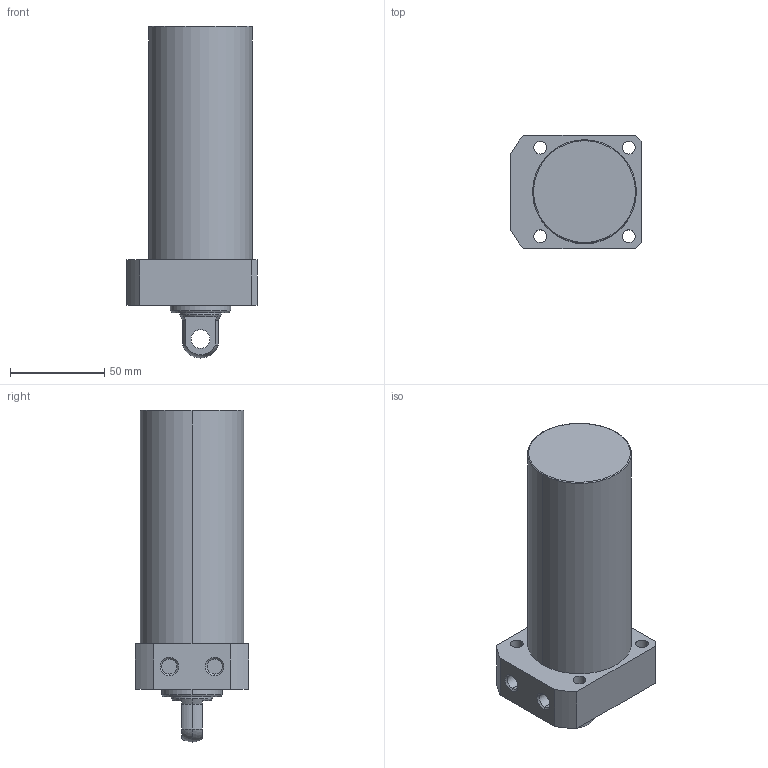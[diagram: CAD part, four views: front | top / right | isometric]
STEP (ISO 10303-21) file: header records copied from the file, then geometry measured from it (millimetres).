
FILE_DESCRIPTION (( 'STEP AP203' ), '1' );
FILE_NAME ('CLLR055-CP-095.STEP', '2017-05-16T03:23:45', ( '' ), ( '' ), 'SwSTEP 2.0', 'SolidWorks 2015', '' );
FILE_SCHEMA (( 'CONFIG_CONTROL_DESIGN' ));
Length unit declared in the file: millimetre
Products named in the file (1): CLLR055-CP-095
Bounding box: 69 x 60 x 176 mm (x, y, z)
Volume: 394126.7 mm3; surface area: 39643.7 mm2
Topology: 1 solids, 1 shells, 59 faces, 139 edges, 89 vertices
Faces by surface type: cylinder 29, plane 18, cone 8, torus 2, sphere 2
Entity records: 1822 total; most frequent: DIRECTION 331, CARTESIAN_POINT 300, ORIENTED_EDGE 278, EDGE_CURVE 139, AXIS2_PLACEMENT_3D 136, VERTEX_POINT 89, CIRCLE 76, EDGE_LOOP 76
